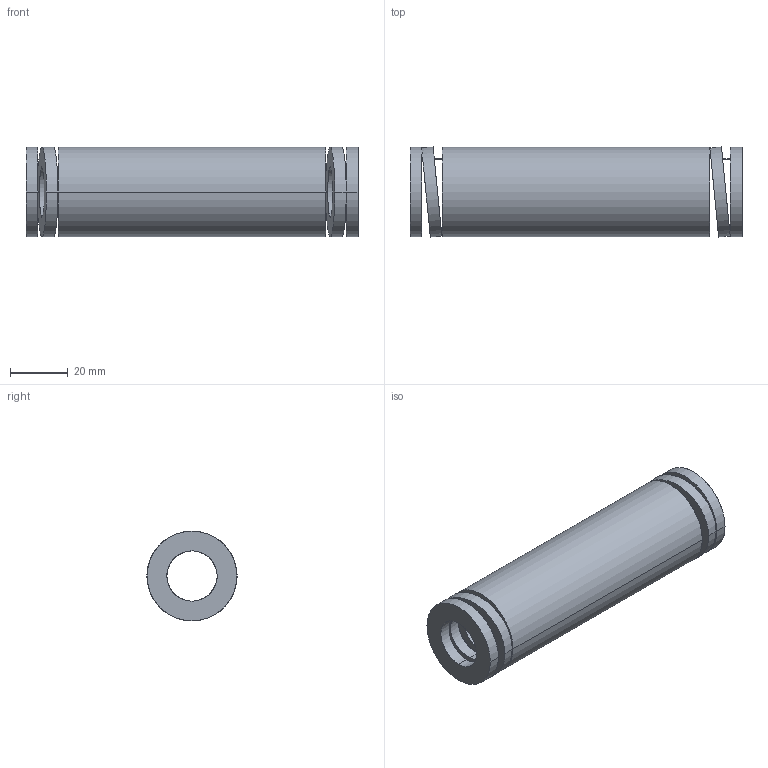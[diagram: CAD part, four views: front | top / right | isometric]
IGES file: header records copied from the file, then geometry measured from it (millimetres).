
Start section: START RECORD GO HERE.
Global section: file name: 392-B32-115.igs; native system: DASSAULT SYSTEMES CATIA V5 R20 - www.3ds.com; preprocessor: CATIA Version 5 Release 20 ; author: Utente; organization: NB04-ASUS; date: 20210813.105547; units: millimetre
Bounding box: 115 x 31.24 x 31 mm (x, y, z)
Surface area: 21704.2 mm2 (no closed solid volume)
Topology: 0 solids, 0 shells, 38 faces, 184 edges, 184 vertices
Faces by surface type: revolution 28, plane 10
